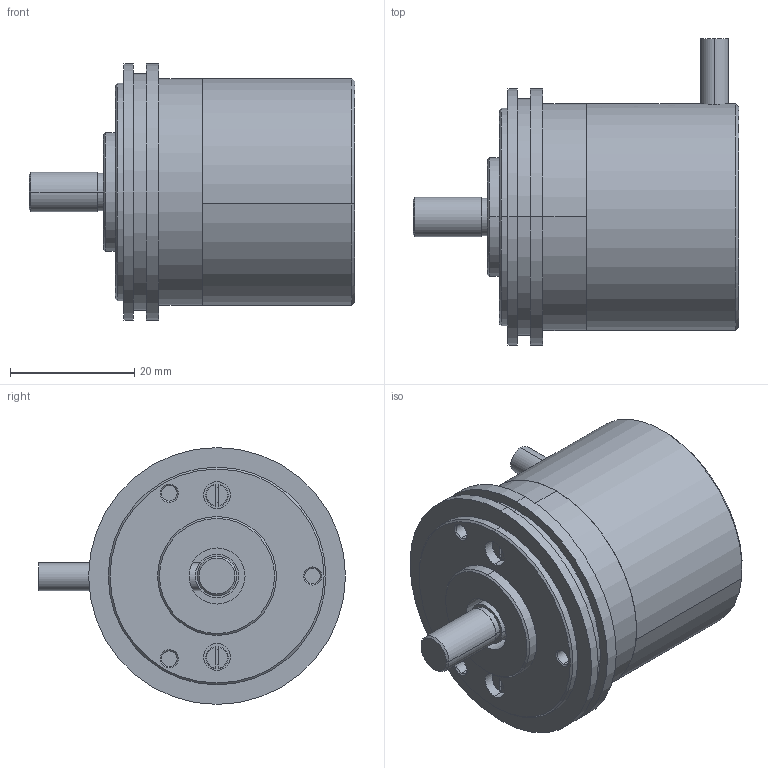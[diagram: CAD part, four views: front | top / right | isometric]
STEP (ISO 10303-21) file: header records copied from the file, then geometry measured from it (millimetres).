
FILE_DESCRIPTION (( 'STEP AP214' ), '1' );
FILE_NAME ('ﾋﾈﾐ-137ﾃ.STEP', '2017-05-23T08:42:55', ( '' ), ( '' ), 'SwSTEP 2.0', 'SolidWorks 2013', '' );
FILE_SCHEMA (( 'AUTOMOTIVE_DESIGN' ));
Length unit declared in the file: millimetre
Products named in the file (1): ﾋﾈﾐ-137ﾃ
Bounding box: 52.4 x 49.35 x 41.31 mm (x, y, z)
Surface area: 8905 mm2 (no closed solid volume)
Topology: 0 solids, 10 shells, 77 faces, 183 edges, 124 vertices
Faces by surface type: cylinder 34, plane 23, cone 14, torus 4, bspline 2
Entity records: 4894 total; most frequent: CARTESIAN_POINT 2211, DIRECTION 413, ORIENTED_EDGE 320, EDGE_CURVE 183, AXIS2_PLACEMENT_3D 178, VERTEX_POINT 124, CIRCLE 102, EDGE_LOOP 94
